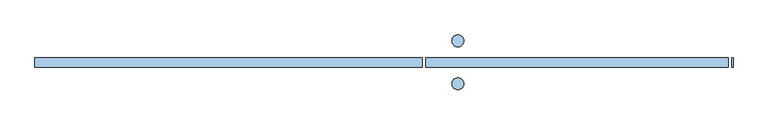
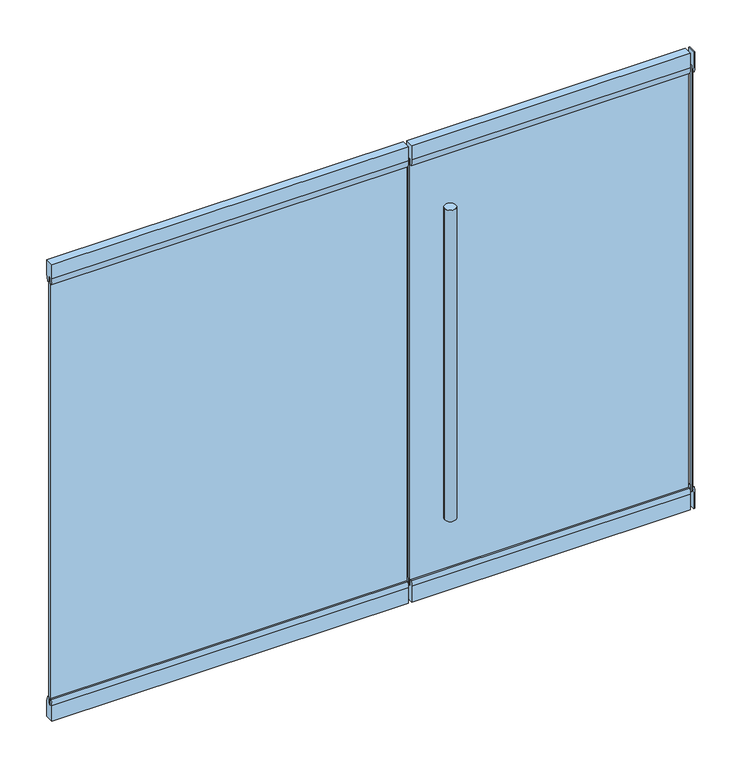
"""IFC4 building model written with IfcOpenShell, lengths in millimetres: window geometry, Herculite-1 Puerta : VL-4 - Herculite-1 Puerta 2.93 X 2.20."""

from ifc_helpers import new_model, si_unit, point, frame, frame_2d, origin, place, context, project, spatial, polyline, circle_curve, trimmed, segment, composite_curve, outline, extrude, source, transform, mapped, element, save


def window_122b7af2(model_context):
    return source(origin(), model_context, "Body", "SweptSolid", [
        extrude(outline(composite_curve([segment(polyline([(-7.5, 2100.0), (-15.0, 2100.0)]), True, "CONTINUOUS"), segment(trimmed(circle_curve(frame_2d((80.0, 2131.22499)), 100.0), [point((-15.0, 2100.0))], [point((-20.0, 2131.22499))], False, "CARTESIAN"), True, "CONTINUOUS"), segment(polyline([(-20.0, 2131.22499), (-20.0, 2200.0), (20.0, 2200.0), (20.0, 2131.22499)]), True, "CONTINUOUS"), segment(trimmed(circle_curve(frame_2d((-80.0, 2131.22499)), 100.0), [point((20.0, 2131.22499))], [point((15.0, 2100.0))], False, "CARTESIAN"), True, "CONTINUOUS"), segment(polyline([(15.0, 2100.0), (7.5, 2100.0), (7.5, 2130.0), (-7.5, 2130.0), (-7.5, 2100.0)]), True, "CONTINUOUS")], self_intersect=False)), frame((175.0, 0.0, 0.0), z_axis=(1.0, 0.0, 0.0), x_axis=(0.0, 1.0, 0.0)), (0.0, 0.0, 1.0), 1270.0),
        extrude(outline(composite_curve([segment(polyline([(-7.5, 2100.0), (-15.0, 2100.0)]), True, "CONTINUOUS"), segment(trimmed(circle_curve(frame_2d((80.0, 2131.22499)), 100.0), [point((-15.0, 2100.0))], [point((-20.0, 2131.22499))], False, "CARTESIAN"), True, "CONTINUOUS"), segment(polyline([(-20.0, 2131.22499), (-20.0, 2200.0), (20.0, 2200.0), (20.0, 2131.22499)]), True, "CONTINUOUS"), segment(trimmed(circle_curve(frame_2d((-80.0, 2131.22499)), 100.0), [point((20.0, 2131.22499))], [point((15.0, 2100.0))], False, "CARTESIAN"), True, "CONTINUOUS"), segment(polyline([(15.0, 2100.0), (7.5, 2100.0), (7.5, 2130.0), (-7.5, 2130.0), (-7.5, 2100.0)]), True, "CONTINUOUS")], self_intersect=False)), frame((1460.0, 0.0, 0.0), z_axis=(1.0, 0.0, 0.0), x_axis=(0.0, 1.0, 0.0)), (0.0, 0.0, 1.0), 5.0),
        extrude(outline(composite_curve([segment(polyline([(-7.5, 2100.0), (-15.0, 2100.0)]), True, "CONTINUOUS"), segment(trimmed(circle_curve(frame_2d((80.0, 2131.22499)), 100.0), [point((-15.0, 2100.0))], [point((-20.0, 2131.22499))], False, "CARTESIAN"), True, "CONTINUOUS"), segment(polyline([(-20.0, 2131.22499), (-20.0, 2200.0), (20.0, 2200.0), (20.0, 2131.22499)]), True, "CONTINUOUS"), segment(trimmed(circle_curve(frame_2d((-80.0, 2131.22499)), 100.0), [point((20.0, 2131.22499))], [point((15.0, 2100.0))], False, "CARTESIAN"), True, "CONTINUOUS"), segment(polyline([(15.0, 2100.0), (7.5, 2100.0), (7.5, 2130.0), (-7.5, 2130.0), (-7.5, 2100.0)]), True, "CONTINUOUS")], self_intersect=False)), frame((-1465.0, 0.0, 0.0), z_axis=(1.0, 0.0, 0.0), x_axis=(0.0, 1.0, 0.0)), (0.0, 0.0, 1.0), 1625.0),
        extrude(outline(composite_curve([segment(trimmed(circle_curve(frame_2d((310.1, -90.00005)), 25.0), [point((285.1, -90.00005))], [point((335.1, -90.00005))], False, "CARTESIAN"), True, "CONTINUOUS"), segment(trimmed(circle_curve(frame_2d((310.1, -90.00005)), 25.0), [point((335.1, -90.00005))], [point((285.1, -90.00005))], False, "CARTESIAN"), True, "CONTINUOUS")], self_intersect=False)), frame((0.0, 0.0, 400.0), z_axis=(0.0, 0.0, 1.0), x_axis=(1.0, 0.0, 0.0)), (0.0, 0.0, 1.0), 1500.0),
        extrude(outline(composite_curve([segment(trimmed(circle_curve(frame_2d((310.1, 90.00005)), 25.0), [point((285.1, 90.00005))], [point((335.1, 90.00005))], False, "CARTESIAN"), True, "CONTINUOUS"), segment(trimmed(circle_curve(frame_2d((310.1, 90.00005)), 25.0), [point((335.1, 90.00005))], [point((285.1, 90.00005))], False, "CARTESIAN"), True, "CONTINUOUS")], self_intersect=False)), frame((0.0, 0.0, 400.0), z_axis=(0.0, 0.0, 1.0), x_axis=(1.0, 0.0, 0.0)), (0.0, 0.0, 1.0), 1500.0),
        extrude(outline(composite_curve([segment(polyline([(-7.5, 100.0), (-7.5, 70.0), (7.5, 70.0), (7.5, 100.0), (15.0, 100.0)]), True, "CONTINUOUS"), segment(trimmed(circle_curve(frame_2d((-45.0, 75.0)), 65.0), [point((15.0, 100.0))], [point((20.0, 75.0))], False, "CARTESIAN"), True, "CONTINUOUS"), segment(polyline([(20.0, 75.0), (20.0, 0.0), (-20.0, 0.0), (-20.0, 75.0)]), True, "CONTINUOUS"), segment(trimmed(circle_curve(frame_2d((45.0, 75.0)), 65.0), [point((-20.0, 75.0))], [point((-15.0, 100.0))], False, "CARTESIAN"), True, "CONTINUOUS"), segment(polyline([(-15.0, 100.0), (-7.5, 100.0)]), True, "CONTINUOUS")], self_intersect=False)), frame((175.0, 0.0, 0.0), z_axis=(1.0, 0.0, 0.0), x_axis=(0.0, 1.0, 0.0)), (0.0, 0.0, 1.0), 1270.0),
        extrude(outline(polyline([(175.0, -5.5), (175.0, 5.5), (1445.0, 5.5), (1445.0, -5.5), (175.0, -5.5)])), frame((0.0, 0.0, 72.0), z_axis=(0.0, 0.0, 1.0), x_axis=(1.0, 0.0, 0.0)), (0.0, 0.0, 1.0), 2056.0),
        extrude(outline(composite_curve([segment(polyline([(-7.5, 100.0), (-7.5, 70.0), (7.5, 70.0), (7.5, 100.0), (15.0, 100.0)]), True, "CONTINUOUS"), segment(trimmed(circle_curve(frame_2d((-45.0, 75.0)), 65.0), [point((15.0, 100.0))], [point((20.0, 75.0))], False, "CARTESIAN"), True, "CONTINUOUS"), segment(polyline([(20.0, 75.0), (20.0, 0.0), (-20.0, 0.0), (-20.0, 75.0)]), True, "CONTINUOUS"), segment(trimmed(circle_curve(frame_2d((45.0, 75.0)), 65.0), [point((-20.0, 75.0))], [point((-15.0, 100.0))], False, "CARTESIAN"), True, "CONTINUOUS"), segment(polyline([(-15.0, 100.0), (-7.5, 100.0)]), True, "CONTINUOUS")], self_intersect=False)), frame((1460.0, 0.0, 0.0), z_axis=(1.0, 0.0, 0.0), x_axis=(0.0, 1.0, 0.0)), (0.0, 0.0, 1.0), 5.0),
        extrude(outline(composite_curve([segment(polyline([(-7.5, 100.0), (-7.5, 70.0), (7.5, 70.0), (7.5, 100.0), (15.0, 100.0)]), True, "CONTINUOUS"), segment(trimmed(circle_curve(frame_2d((-45.0, 75.0)), 65.0), [point((15.0, 100.0))], [point((20.0, 75.0))], False, "CARTESIAN"), True, "CONTINUOUS"), segment(polyline([(20.0, 75.0), (20.0, 0.0), (-20.0, 0.0), (-20.0, 75.0)]), True, "CONTINUOUS"), segment(trimmed(circle_curve(frame_2d((45.0, 75.0)), 65.0), [point((-20.0, 75.0))], [point((-15.0, 100.0))], False, "CARTESIAN"), True, "CONTINUOUS"), segment(polyline([(-15.0, 100.0), (-7.5, 100.0)]), True, "CONTINUOUS")], self_intersect=False)), frame((-1465.0, 0.0, 0.0), z_axis=(1.0, 0.0, 0.0), x_axis=(0.0, 1.0, 0.0)), (0.0, 0.0, 1.0), 1625.0),
        extrude(outline(polyline([(1460.0, -5.5), (1460.0, 5.5), (1465.0, 5.5), (1465.0, -5.5), (1460.0, -5.5)])), frame((0.0, 0.0, 72.0), z_axis=(0.0, 0.0, 1.0), x_axis=(1.0, 0.0, 0.0)), (0.0, 0.0, 1.0), 2056.0),
        extrude(outline(polyline([(-1465.0, -5.5), (-1465.0, 5.5), (160.0, 5.5), (160.0, -5.5), (-1465.0, -5.5)])), frame((0.0, 0.0, 72.0), z_axis=(0.0, 0.0, 1.0), x_axis=(1.0, 0.0, 0.0)), (0.0, 0.0, 1.0), 2056.0),
    ])


if __name__ == "__main__":
    model = new_model("IFC4")
    model_context = context("Model", 3, world=origin())
    ifc_project = project(units=[si_unit("LENGTHUNIT", "METRE", prefix="MILLI")], contexts=[model_context])
    site = spatial("IfcSite", under=ifc_project)
    building = spatial("IfcBuilding", under=site)
    placement = place(None, origin())
    window_shape = window_122b7af2(model_context)
    element("IfcWindow", 1, ObjectType="Herculite-1 Puerta : VL-4 - Herculite-1 Puerta 2.93 X 2.20", at=placement, inside=building, context=model_context, shape_type="MappedRepresentation", body=[
        mapped(window_shape, transform((0.0, 0.0, 0.0), x_axis=(1.0, 0.0, 0.0), y_axis=(0.0, 1.0, 0.0), z_axis=(0.0, 0.0, 1.0))),
    ])
    save(model, "model.ifc")
